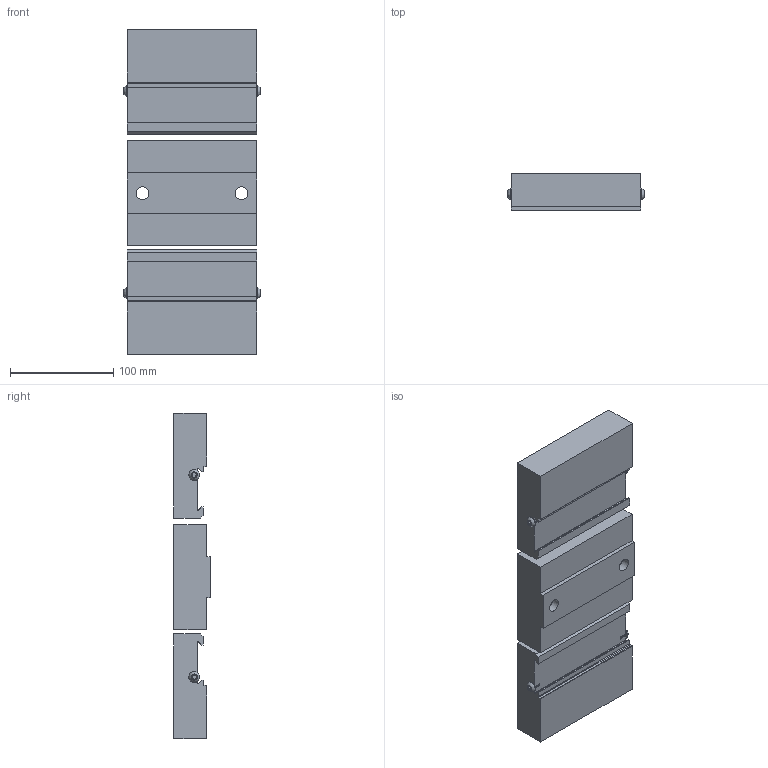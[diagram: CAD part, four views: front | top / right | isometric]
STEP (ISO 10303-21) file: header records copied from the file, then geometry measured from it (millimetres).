
FILE_DESCRIPTION (( 'STEP AP214' ), '1' );
FILE_NAME ('VA513-MJ-A_WEBSITE.STEP', '2025-08-15T23:12:52', ( '' ), ( '' ), 'SwSTEP 2.0', 'SolidWorks 2024', '' );
FILE_SCHEMA (( 'AUTOMOTIVE_DESIGN' ));
Length unit declared in the file: inch
Products named in the file (4): M6X8MM.BHCS_M6X8MM.BHCS; VA513-MJ-A_WEBSITE; VAJ-VA513-F_VAJ-VA513-F; VAJ-VA513-M_VAJ-VA513-M
Assembly tree (7 placements, depth 2):
  VA513-MJ-A_WEBSITE
    VAJ-VA513-F_VAJ-VA513-F
    VAJ-VA513-M_VAJ-VA513-M  x2
    M6X8MM.BHCS_M6X8MM.BHCS  x4
Bounding box: 132.33 x 35.5 x 315.56 mm (x, y, z)
Volume: 1132171.1 mm3; surface area: 130195 mm2
Topology: 7 solids, 7 shells, 194 faces, 422 edges, 256 vertices
Faces by surface type: plane 104, cone 40, cylinder 34, bspline 12, sphere 4
Full cylindrical faces by diameter (mm): 5 x4, 6 x4, 10.5 x4, 12.5 x2, 19 x2
Entity records: 3853 total; most frequent: CARTESIAN_POINT 2004, DIRECTION 349, ORIENTED_EDGE 332, EDGE_CURVE 166, AXIS2_PLACEMENT_3D 121, VERTEX_POINT 110, VECTOR 107, LINE 107
